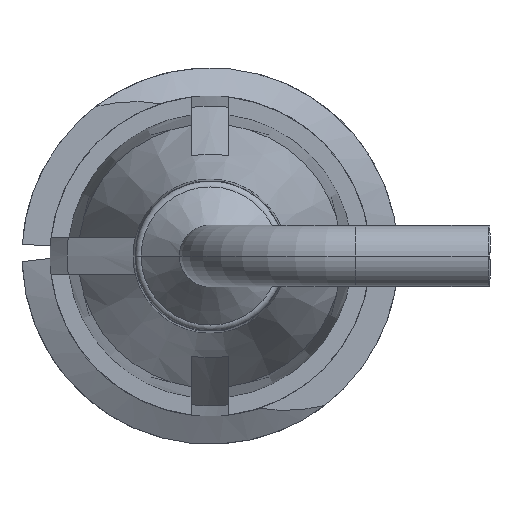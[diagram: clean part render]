
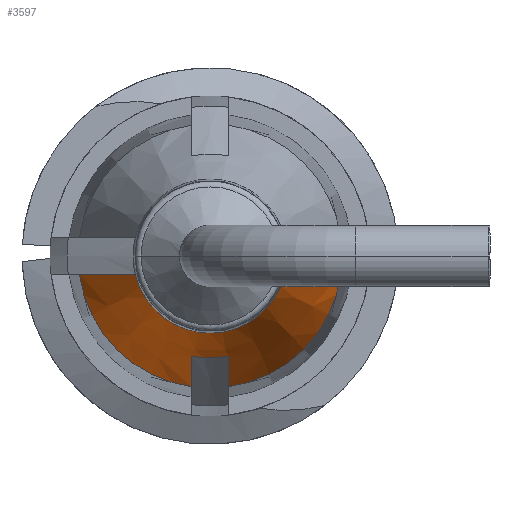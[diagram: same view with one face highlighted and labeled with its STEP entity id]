
A CAD part, front view. The second image highlights one B-rep face of the part: STEP entity #3597.
In plain terms, the highlighted conical face has half-angle 20 degrees and reference radius 2.745 mm.
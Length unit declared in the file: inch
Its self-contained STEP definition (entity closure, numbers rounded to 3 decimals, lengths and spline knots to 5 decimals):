
#116 = VERTEX_POINT ( 'NONE', #3498 ) ;
#478 = CARTESIAN_POINT ( 'NONE',  ( -0.015, -0.406, -0.10703 ) ) ;
#606 = CIRCLE ( 'NONE', #1819, 0.10808 ) ;
#726 = CIRCLE ( 'NONE', #3763, 0.063 ) ;
#804 = CARTESIAN_POINT ( 'NONE',  ( 0.09185, -0.44732, -0.015 ) ) ;
#924 = ORIENTED_EDGE ( 'NONE', *, *, #3807, .F. ) ;
#993 = ORIENTED_EDGE ( 'NONE', *, *, #3222, .T. ) ;
#1143 = FACE_OUTER_BOUND ( 'NONE', #1525, .T. ) ;
#1162 = EDGE_CURVE ( 'NONE', #3504, #116, #4558, .T. ) ;
#1406 = CARTESIAN_POINT ( 'NONE',  ( 0.015, -0.45131, -0.09036 ) ) ;
#1409 = DIRECTION ( 'NONE',  ( 0., 1., 0. ) ) ;
#1520 = ORIENTED_EDGE ( 'NONE', *, *, #1798, .F. ) ;
#1525 = EDGE_LOOP ( 'NONE', ( #1772, #1849, #993, #1520, #924, #3799, #1844, #2746 ) ) ;
#1532 = CARTESIAN_POINT ( 'NONE',  ( -0.10703, -0.406, -0.015 ) ) ;
#1543 = VERTEX_POINT ( 'NONE', #1961 ) ;
#1547 = DIRECTION ( 'NONE',  ( 0., 1., 0. ) ) ;
#1619 = CARTESIAN_POINT ( 'NONE',  ( -0.09185, -0.44732, -0.015 ) ) ;
#1772 = ORIENTED_EDGE ( 'NONE', *, *, #4188, .F. ) ;
#1798 = EDGE_CURVE ( 'NONE', #3299, #2623, #3861, .T. ) ;
#1819 = AXIS2_PLACEMENT_3D ( 'NONE', #1898, #4546, #2679 ) ;
#1844 = ORIENTED_EDGE ( 'NONE', *, *, #1162, .F. ) ;
#1849 = ORIENTED_EDGE ( 'NONE', *, *, #3134, .T. ) ;
#1898 = CARTESIAN_POINT ( 'NONE',  ( 0., -0.406, 0. ) ) ;
#1961 = CARTESIAN_POINT ( 'NONE',  ( -0.06119, -0.52985, -0.015 ) ) ;
#2012 = CARTESIAN_POINT ( 'NONE',  ( 0., -0.406, 0. ) ) ;
#2213 = CARTESIAN_POINT ( 'NONE',  ( 0.015, -0.406, -0.10703 ) ) ;
#2243 = CARTESIAN_POINT ( 'NONE',  ( 0., -0.406, 0. ) ) ;
#2286 = CARTESIAN_POINT ( 'NONE',  ( -0.06119, -0.52985, -0.015 ) ) ;
#2296 = CARTESIAN_POINT ( 'NONE',  ( -0.10703, -0.406, -0.015 ) ) ;
#2355 = EDGE_CURVE ( 'NONE', #116, #2446, #3568, .T. ) ;
#2446 = VERTEX_POINT ( 'NONE', #4443 ) ;
#2579 = DIRECTION ( 'NONE',  ( -1., 0., 0. ) ) ;
#2623 = VERTEX_POINT ( 'NONE', #2296 ) ;
#2679 = DIRECTION ( 'NONE',  ( 1., 0., 0. ) ) ;
#2746 = ORIENTED_EDGE ( 'NONE', *, *, #4123, .F. ) ;
#2986 = CARTESIAN_POINT ( 'NONE',  ( 0., -0.47395, 0. ) ) ;
#3067 = VERTEX_POINT ( 'NONE', #3101 ) ;
#3101 = CARTESIAN_POINT ( 'NONE',  ( 0.06119, -0.52985, -0.015 ) ) ;
#3134 = EDGE_CURVE ( 'NONE', #3067, #1543, #726, .T. ) ;
#3183 = CARTESIAN_POINT ( 'NONE',  ( -0.015, -0.45131, -0.09036 ) ) ;
#3222 = EDGE_CURVE ( 'NONE', #1543, #2623, #4155, .T. ) ;
#3299 = VERTEX_POINT ( 'NONE', #478 ) ;
#3302 = CARTESIAN_POINT ( 'NONE',  ( 0., -0.52985, 0. ) ) ;
#3305 = AXIS2_PLACEMENT_3D ( 'NONE', #2012, #1547, #3417 ) ;
#3364 = DIRECTION ( 'NONE',  ( 0., 1., 0. ) ) ;
#3417 = DIRECTION ( 'NONE',  ( 1., 0., 0. ) ) ;
#3419 = CARTESIAN_POINT ( 'NONE',  ( -0.07664, -0.48863, -0.015 ) ) ;
#3434 = CARTESIAN_POINT ( 'NONE',  ( 0.10703, -0.406, -0.015 ) ) ;
#3482 = CARTESIAN_POINT ( 'NONE',  ( 0.10703, -0.406, -0.015 ) ) ;
#3498 = CARTESIAN_POINT ( 'NONE',  ( 0.015, -0.47395, -0.08198 ) ) ;
#3504 = VERTEX_POINT ( 'NONE', #2213 ) ;
#3541 = CARTESIAN_POINT ( 'NONE',  ( 0.015, -0.42866, -0.0987 ) ) ;
#3568 = CIRCLE ( 'NONE', #4637, 0.08335 ) ;
#3585 = CARTESIAN_POINT ( 'NONE',  ( 0.015, -0.406, -0.10703 ) ) ;
#3597 = ADVANCED_FACE ( 'NONE', ( #1143 ), #3768, .T. ) ;
#3627 = AXIS2_PLACEMENT_3D ( 'NONE', #2243, #4118, #3688 ) ;
#3688 = DIRECTION ( 'NONE',  ( 1., 0., 0. ) ) ;
#3703 = CARTESIAN_POINT ( 'NONE',  ( 0.06119, -0.52985, -0.015 ) ) ;
#3752 = CARTESIAN_POINT ( 'NONE',  ( 0.07664, -0.48863, -0.015 ) ) ;
#3763 = AXIS2_PLACEMENT_3D ( 'NONE', #3302, #1409, #3972 ) ;
#3768 = CONICAL_SURFACE ( 'NONE', #3305, 0.10808, 0.349 ) ;
#3799 = ORIENTED_EDGE ( 'NONE', *, *, #2355, .F. ) ;
#3807 = EDGE_CURVE ( 'NONE', #2446, #3299, #4166, .T. ) ;
#3861 = CIRCLE ( 'NONE', #3627, 0.10808 ) ;
#3921 = CARTESIAN_POINT ( 'NONE',  ( -0.015, -0.47395, -0.08198 ) ) ;
#3972 = DIRECTION ( 'NONE',  ( 1., 0., 0. ) ) ;
#4118 = DIRECTION ( 'NONE',  ( 0., 1., 0. ) ) ;
#4123 = EDGE_CURVE ( 'NONE', #4314, #3504, #606, .T. ) ;
#4155 = B_SPLINE_CURVE_WITH_KNOTS ( 'NONE', 3,
 ( #2286, #3419, #1619, #1532 ),
 .UNSPECIFIED., .F., .F.,
 ( 4, 4 ),
 ( 0.00282, 0.00617 ),
 .UNSPECIFIED. ) ;
#4166 = B_SPLINE_CURVE_WITH_KNOTS ( 'NONE', 3,
 ( #3921, #3183, #4612, #4228 ),
 .UNSPECIFIED., .F., .F.,
 ( 4, 4 ),
 ( 0.00247, 0.00431 ),
 .UNSPECIFIED. ) ;
#4188 = EDGE_CURVE ( 'NONE', #3067, #4314, #4553, .T. ) ;
#4228 = CARTESIAN_POINT ( 'NONE',  ( -0.015, -0.406, -0.10703 ) ) ;
#4284 = CARTESIAN_POINT ( 'NONE',  ( 0.015, -0.47395, -0.08198 ) ) ;
#4314 = VERTEX_POINT ( 'NONE', #3482 ) ;
#4443 = CARTESIAN_POINT ( 'NONE',  ( -0.015, -0.47395, -0.08198 ) ) ;
#4546 = DIRECTION ( 'NONE',  ( 0., 1., 0. ) ) ;
#4553 = B_SPLINE_CURVE_WITH_KNOTS ( 'NONE', 3,
 ( #3703, #3752, #804, #3434 ),
 .UNSPECIFIED., .F., .F.,
 ( 4, 4 ),
 ( 0.00282, 0.00617 ),
 .UNSPECIFIED. ) ;
#4558 = B_SPLINE_CURVE_WITH_KNOTS ( 'NONE', 3,
 ( #3585, #3541, #1406, #4284 ),
 .UNSPECIFIED., .F., .F.,
 ( 4, 4 ),
 ( 0.00343, 0.00527 ),
 .UNSPECIFIED. ) ;
#4612 = CARTESIAN_POINT ( 'NONE',  ( -0.015, -0.42866, -0.0987 ) ) ;
#4637 = AXIS2_PLACEMENT_3D ( 'NONE', #2986, #3364, #2579 ) ;
